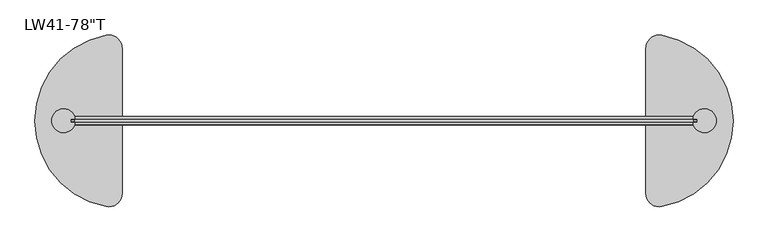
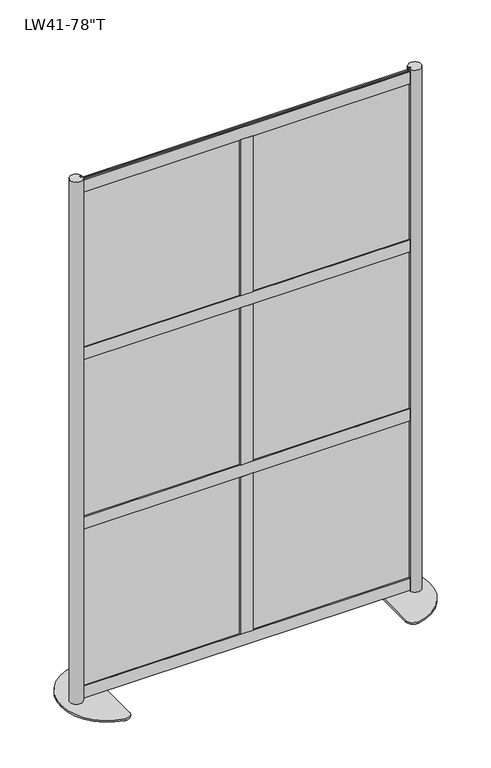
"""IFC4 building model written with IfcOpenShell, lengths in millimetres: furniture geometry."""

from ifc_helpers import new_model, si_unit, point, frame, frame_2d, origin, origin_with_axes, place, context, project, spatial, polyline, circle_curve, trimmed, segment, composite_curve, outline, extrude, source, transform, mapped, element, save


def furniture_ae6fd556(model_context):
    return source(origin(), model_context, "Body", "SweptSolid", [
        extrude(outline(polyline([(592.9137189, 1.5875), (592.9138926, -1.5875), (15.0638917, -1.5875), (15.063718, 1.5875), (592.9137189, 1.5875)])), frame((0.0, 0.0, 1324.2670292), z_axis=(0.0, 0.0, 1.0), x_axis=(1.0, 0.0, 0.0)), (0.0, 0.0, 1.0), 608.965),
        extrude(outline(polyline([(-592.9137189, 1.5875), (-15.063718, 1.5875), (-15.0638917, -1.5875), (-592.9138926, -1.5875), (-592.9137189, 1.5875)])), frame((0.0, 0.0, 1324.2670292), z_axis=(0.0, 0.0, 1.0), x_axis=(1.0, 0.0, 0.0)), (0.0, 0.0, 1.0), 608.965),
        extrude(outline(polyline([(592.9137189, 1.5875), (592.9138926, -1.5875), (15.0638917, -1.5875), (15.063718, 1.5875), (592.9137189, 1.5875)])), frame((0.0, 0.0, 689.2671), z_axis=(0.0, 0.0, 1.0), x_axis=(1.0, 0.0, 0.0)), (0.0, 0.0, 1.0), 608.965),
        extrude(outline(polyline([(-592.9137189, 1.5875), (-15.063718, 1.5875), (-15.0638917, -1.5875), (-592.9138926, -1.5875), (-592.9137189, 1.5875)])), frame((0.0, 0.0, 689.2671), z_axis=(0.0, 0.0, 1.0), x_axis=(1.0, 0.0, 0.0)), (0.0, 0.0, 1.0), 608.965),
        extrude(outline(polyline([(592.9137189, 1.5875), (592.9138926, -1.5875), (15.0638917, -1.5875), (15.063718, 1.5875), (592.9137189, 1.5875)])), frame((0.0, 0.0, 49.2633), z_axis=(0.0, 0.0, 1.0), x_axis=(1.0, 0.0, 0.0)), (0.0, 0.0, 1.0), 608.965),
        extrude(outline(polyline([(-592.9137189, 1.5875), (-15.063718, 1.5875), (-15.0638917, -1.5875), (-592.9138926, -1.5875), (-592.9137189, 1.5875)])), frame((0.0, 0.0, 49.2633), z_axis=(0.0, 0.0, 1.0), x_axis=(1.0, 0.0, 0.0)), (0.0, 0.0, 1.0), 608.965),
        extrude(outline(polyline([(-22.6314, 3.556), (-22.6314, 7.6327), (22.6314, 7.6327), (22.6314, 3.556), (15.5194, 3.556), (15.5194, -3.556), (22.6314, -3.556), (22.6314, -7.6327), (-22.6314, -7.6327), (-22.6314, -3.556), (-15.5194, -3.556), (-15.5194, 3.556), (-22.6314, 3.556)])), frame((0.0, 0.0, 56.3753), z_axis=(0.0, 0.0, 1.0), x_axis=(1.0, 0.0, 0.0)), (0.0, 0.0, 1.0), 594.741),
        extrude(outline(polyline([(-22.6314, 3.556), (-22.6314, 7.6327), (22.6314, 7.6327), (22.6314, 3.556), (15.5194, 3.556), (15.5194, -3.556), (22.6314, -3.556), (22.6314, -7.6327), (-22.6314, -7.6327), (-22.6314, -3.556), (-15.5194, -3.556), (-15.5194, 3.556), (-22.6314, 3.556)])), frame((0.0, 0.0, 696.3791), z_axis=(0.0, 0.0, 1.0), x_axis=(1.0, 0.0, 0.0)), (0.0, 0.0, 1.0), 594.741),
        extrude(outline(polyline([(-22.6314, 3.556), (-22.6314, 7.6327), (22.6314, 7.6327), (22.6314, 3.556), (15.5194, 3.556), (15.5194, -3.556), (22.6314, -3.556), (22.6314, -7.6327), (-22.6314, -7.6327), (-22.6314, -3.556), (-15.5194, -3.556), (-15.5194, 3.556), (-22.6314, 3.556)])), frame((0.0, 0.0, 1336.3829), z_axis=(0.0, 0.0, 1.0), x_axis=(1.0, 0.0, 0.0)), (0.0, 0.0, 1.0), 590.0293),
        extrude(outline(polyline([(3.556, 651.1163), (3.556, 658.2283), (-3.556, 658.2283), (-3.556, 651.1163), (-7.6327, 651.1163), (-7.6327, 696.3791), (-3.556, 696.3791), (-3.556, 689.2671), (3.556, 689.2671), (3.556, 696.3791), (7.6327, 696.3791), (7.6327, 651.1163), (3.556, 651.1163)])), frame((-584.9874, 0.0, 0.0), z_axis=(1.0, 0.0, 0.0), x_axis=(0.0, 1.0, 0.0)), (0.0, 0.0, 1.0), 1169.9748),
        extrude(outline(polyline([(3.556, 1291.1201), (3.556, 1298.2321), (-3.556, 1298.2321), (-3.556, 1291.1201), (-7.6327, 1291.1201), (-7.6327, 1336.3829), (-3.556, 1336.3829), (-3.556, 1329.2709), (3.556, 1329.2709), (3.556, 1336.3829), (7.6327, 1336.3829), (7.6327, 1291.1201), (3.556, 1291.1201)])), frame((-584.9874, 0.0, 0.0), z_axis=(1.0, 0.0, 0.0), x_axis=(0.0, 1.0, 0.0)), (0.0, 0.0, 1.0), 1169.9748),
        extrude(outline(polyline([(3.556, 11.1125), (3.556, 18.2245), (-3.556, 18.2245), (-3.556, 11.1125), (-7.6327, 11.1125), (-7.6327, 56.3753), (-3.556, 56.3753), (-3.556, 49.2633), (3.556, 49.2633), (3.556, 56.3753), (7.6327, 56.3753), (7.6327, 11.1125), (3.556, 11.1125)])), frame((-585.0636, 0.0, 0.0), z_axis=(1.0, 0.0, 0.0), x_axis=(0.0, 1.0, 0.0)), (0.0, 0.0, 1.0), 1170.1272),
        extrude(outline(polyline([(3.556, 1926.1200292), (3.556, 1933.2320292), (-3.556, 1933.2320292), (-3.556, 1926.1200292), (-7.6327, 1926.1200292), (-7.6327, 1971.3828292), (-3.556, 1971.3828292), (-3.556, 1964.2708292), (3.556, 1964.2708292), (3.556, 1971.3828292), (7.6327, 1971.3828292), (7.6327, 1926.1200292), (3.556, 1926.1200292)])), frame((-585.0636, 0.0, 0.0), z_axis=(1.0, 0.0, 0.0), x_axis=(0.0, 1.0, 0.0)), (0.0, 0.0, 1.0), 1170.1272),
        extrude(outline(composite_curve([segment(polyline([(585.0636, -7.7568093), (585.0636, -3.556), (592.1756, -3.556), (592.1756, 3.556), (585.0636, 3.556), (585.0636, 7.7568093)]), True, "CONTINUOUS"), segment(trimmed(circle_curve(frame_2d((606.1665837, 0.0)), 22.4834163), [point((585.0636, 7.7568093))], [point((585.0636, -7.7568093))], False, "CARTESIAN"), True, "CONTINUOUS")], self_intersect=False)), frame((0.0, 0.0, 6.35), z_axis=(0.0, 0.0, 1.0), x_axis=(1.0, 0.0, 0.0)), (0.0, 0.0, 1.0), 1974.85),
        extrude(outline(composite_curve([segment(polyline([(495.3, -137.3715036), (495.3, 137.3715036)]), True, "CONTINUOUS"), segment(trimmed(circle_curve(frame_2d((520.7, 137.3715036)), 25.4), [point((495.3, 137.3715036))], [point((525.3181818, 162.3481406))], False, "CARTESIAN"), True, "CONTINUOUS"), segment(trimmed(circle_curve(frame_2d((495.3, 0.0)), 165.1), [point((525.3181818, 162.3481406))], [point((660.4, 0.0))], False, "CARTESIAN"), True, "CONTINUOUS"), segment(trimmed(circle_curve(frame_2d((495.3, 0.0)), 165.1), [point((660.4, 0.0))], [point((525.3181818, -162.3481406))], False, "CARTESIAN"), True, "CONTINUOUS"), segment(trimmed(circle_curve(frame_2d((520.7, -137.3715036)), 25.4), [point((525.3181818, -162.3481406))], [point((495.3, -137.3715036))], False, "CARTESIAN"), True, "CONTINUOUS")], self_intersect=False)), origin_with_axes(), (0.0, 0.0, 1.0), 6.35),
        extrude(outline(composite_curve([segment(trimmed(circle_curve(frame_2d((-606.1665837, 0.0)), 22.4834163), [point((-585.0636, -7.7568093))], [point((-585.0636, 7.7568093))], False, "CARTESIAN"), True, "CONTINUOUS"), segment(polyline([(-585.0636, 7.7568093), (-585.0636, 3.556), (-592.1756, 3.556), (-592.1756, -3.556), (-585.0636, -3.556), (-585.0636, -7.7568093)]), True, "CONTINUOUS")], self_intersect=False)), frame((0.0, 0.0, 6.35), z_axis=(0.0, 0.0, 1.0), x_axis=(1.0, 0.0, 0.0)), (0.0, 0.0, 1.0), 1974.85),
        extrude(outline(composite_curve([segment(trimmed(circle_curve(frame_2d((-520.7, -137.3715036)), 25.4), [point((-495.3, -137.3715036))], [point((-525.3181818, -162.3481406))], False, "CARTESIAN"), True, "CONTINUOUS"), segment(trimmed(circle_curve(frame_2d((-495.3, 0.0)), 165.1), [point((-525.3181818, -162.3481406))], [point((-660.4, 0.0))], False, "CARTESIAN"), True, "CONTINUOUS"), segment(trimmed(circle_curve(frame_2d((-495.3, 0.0)), 165.1), [point((-660.4, 0.0))], [point((-525.3181818, 162.3481406))], False, "CARTESIAN"), True, "CONTINUOUS"), segment(trimmed(circle_curve(frame_2d((-520.7, 137.3715036)), 25.4), [point((-525.3181818, 162.3481406))], [point((-495.3, 137.3715036))], False, "CARTESIAN"), True, "CONTINUOUS"), segment(polyline([(-495.3, 137.3715036), (-495.3, -137.3715036)]), True, "CONTINUOUS")], self_intersect=False)), origin_with_axes(), (0.0, 0.0, 1.0), 6.35),
    ])


if __name__ == "__main__":
    model = new_model("IFC4")
    model_context = context("Model", 3, world=origin())
    ifc_project = project(units=[si_unit("LENGTHUNIT", "METRE", prefix="MILLI")], contexts=[model_context])
    site = spatial("IfcSite", under=ifc_project)
    building = spatial("IfcBuilding", under=site)
    placement = place(None, origin())
    furniture_shape = furniture_ae6fd556(model_context)
    element("IfcFurniture", 1, ObjectType="Loft_Wall-Framewall-52 : LW41-78\"T", at=placement, inside=building, context=model_context, shape_type="MappedRepresentation", body=[
        mapped(furniture_shape, transform((0.0, 0.0, 0.0), x_axis=(1.0, 0.0, 0.0), y_axis=(0.0, 1.0, 0.0), z_axis=(0.0, 0.0, 1.0))),
    ])
    save(model, "model.ifc")
